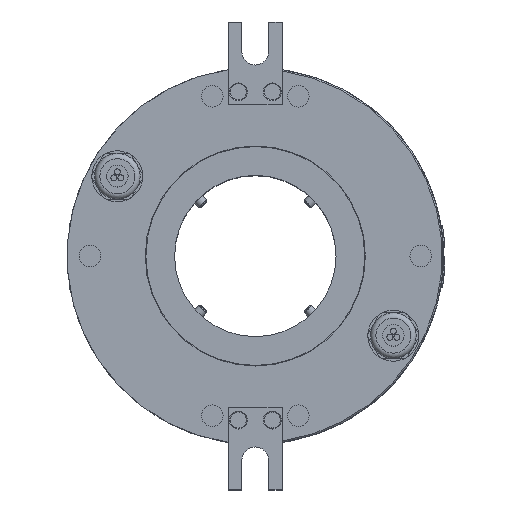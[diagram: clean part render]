
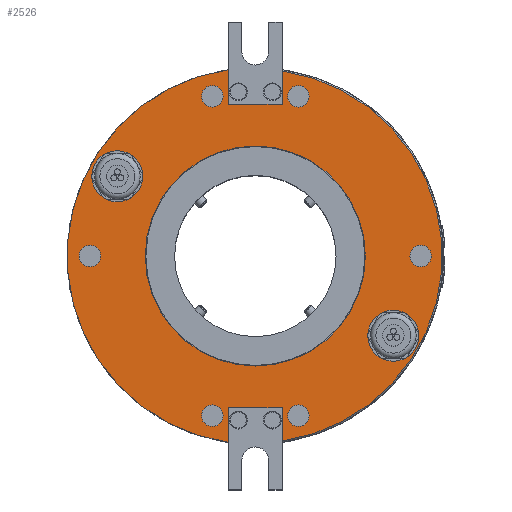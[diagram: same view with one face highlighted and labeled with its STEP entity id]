
A CAD part, top view. The second image highlights one B-rep face of the part: STEP entity #2526.
In plain terms, the highlighted planar face has unit normal (0, 0, 1).
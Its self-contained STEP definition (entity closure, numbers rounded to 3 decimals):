
#397=FACE_BOUND('',#5884,.T.);
#398=FACE_BOUND('',#5885,.T.);
#399=FACE_BOUND('',#5886,.T.);
#400=FACE_BOUND('',#5887,.T.);
#401=FACE_BOUND('',#5888,.T.);
#402=FACE_BOUND('',#5889,.T.);
#403=FACE_BOUND('',#5890,.T.);
#404=FACE_BOUND('',#5891,.T.);
#405=FACE_BOUND('',#5892,.T.);
#406=FACE_BOUND('',#5893,.T.);
#624=CIRCLE('',#18299,4.);
#626=CIRCLE('',#18302,4.);
#788=CIRCLE('',#18615,4.);
#789=CIRCLE('',#18617,4.);
#793=CIRCLE('',#18624,40.9);
#794=CIRCLE('',#18626,9.5);
#795=CIRCLE('',#18628,9.5);
#799=CIRCLE('',#18645,4.);
#801=CIRCLE('',#18648,4.);
#802=CIRCLE('',#18650,69.5);
#803=CIRCLE('',#18651,70.);
#1290=PLANE('',#18652);
#1713=LINE('',#34588,#3958);
#1717=LINE('',#34596,#3962);
#1719=LINE('',#34600,#3964);
#1721=LINE('',#34604,#3966);
#1736=LINE('',#34646,#3981);
#1737=LINE('',#34648,#3982);
#2526=ADVANCED_FACE('',(#397,#398,#399,#400,#401,#402,#403,#404,#405,#406),
#1290,.T.);
#3958=VECTOR('',#20874,1.);
#3962=VECTOR('',#20880,1.);
#3964=VECTOR('',#20884,1.);
#3966=VECTOR('',#20888,1.);
#3981=VECTOR('',#20917,1.);
#3982=VECTOR('',#20920,1.);
#5884=EDGE_LOOP('',(#9595,#9596,#9597,#9598,#9599,#9600,#9601,#9602));
#5885=EDGE_LOOP('',(#9603));
#5886=EDGE_LOOP('',(#9604));
#5887=EDGE_LOOP('',(#9605));
#5888=EDGE_LOOP('',(#9606));
#5889=EDGE_LOOP('',(#9607));
#5890=EDGE_LOOP('',(#9608));
#5891=EDGE_LOOP('',(#9609));
#5892=EDGE_LOOP('',(#9610));
#5893=EDGE_LOOP('',(#9611));
#9595=ORIENTED_EDGE('',*,*,#15183,.F.);
#9596=ORIENTED_EDGE('',*,*,#15191,.T.);
#9597=ORIENTED_EDGE('',*,*,#15165,.F.);
#9598=ORIENTED_EDGE('',*,*,#15163,.F.);
#9599=ORIENTED_EDGE('',*,*,#15161,.F.);
#9600=ORIENTED_EDGE('',*,*,#15192,.T.);
#9601=ORIENTED_EDGE('',*,*,#15184,.F.);
#9602=ORIENTED_EDGE('',*,*,#15157,.F.);
#9603=ORIENTED_EDGE('',*,*,#15156,.F.);
#9604=ORIENTED_EDGE('',*,*,#15155,.F.);
#9605=ORIENTED_EDGE('',*,*,#14789,.T.);
#9606=ORIENTED_EDGE('',*,*,#14791,.T.);
#9607=ORIENTED_EDGE('',*,*,#15154,.F.);
#9608=ORIENTED_EDGE('',*,*,#15150,.F.);
#9609=ORIENTED_EDGE('',*,*,#15190,.F.);
#9610=ORIENTED_EDGE('',*,*,#15188,.F.);
#9611=ORIENTED_EDGE('',*,*,#15149,.T.);
#12524=VERTEX_POINT('',#33313);
#12526=VERTEX_POINT('',#33318);
#12797=VERTEX_POINT('',#34566);
#12798=VERTEX_POINT('',#34569);
#12802=VERTEX_POINT('',#34580);
#12803=VERTEX_POINT('',#34583);
#12804=VERTEX_POINT('',#34586);
#12805=VERTEX_POINT('',#34589);
#12806=VERTEX_POINT('',#34590);
#12807=VERTEX_POINT('',#34595);
#12808=VERTEX_POINT('',#34597);
#12809=VERTEX_POINT('',#34601);
#12810=VERTEX_POINT('',#34605);
#12821=VERTEX_POINT('',#34645);
#12822=VERTEX_POINT('',#34649);
#12824=VERTEX_POINT('',#34657);
#12826=VERTEX_POINT('',#34662);
#14789=EDGE_CURVE('',#12524,#12524,#624,.T.);
#14791=EDGE_CURVE('',#12526,#12526,#626,.T.);
#15149=EDGE_CURVE('',#12797,#12797,#788,.T.);
#15150=EDGE_CURVE('',#12798,#12798,#789,.T.);
#15154=EDGE_CURVE('',#12802,#12802,#793,.T.);
#15155=EDGE_CURVE('',#12803,#12803,#794,.T.);
#15156=EDGE_CURVE('',#12804,#12804,#795,.T.);
#15157=EDGE_CURVE('',#12805,#12806,#1713,.T.);
#15161=EDGE_CURVE('',#12807,#12808,#1717,.T.);
#15163=EDGE_CURVE('',#12808,#12809,#1719,.T.);
#15165=EDGE_CURVE('',#12809,#12810,#1721,.T.);
#15183=EDGE_CURVE('',#12821,#12805,#1736,.T.);
#15184=EDGE_CURVE('',#12806,#12822,#1737,.T.);
#15188=EDGE_CURVE('',#12824,#12824,#799,.T.);
#15190=EDGE_CURVE('',#12826,#12826,#801,.T.);
#15191=EDGE_CURVE('',#12821,#12810,#802,.T.);
#15192=EDGE_CURVE('',#12807,#12822,#803,.T.);
#18299=AXIS2_PLACEMENT_3D('',#33312,#20032,#20033);
#18302=AXIS2_PLACEMENT_3D('',#33317,#20038,#20039);
#18615=AXIS2_PLACEMENT_3D('',#34565,#20844,#20845);
#18617=AXIS2_PLACEMENT_3D('',#34568,#20848,#20849);
#18624=AXIS2_PLACEMENT_3D('',#34579,#20862,#20863);
#18626=AXIS2_PLACEMENT_3D('',#34582,#20866,#20867);
#18628=AXIS2_PLACEMENT_3D('',#34585,#20870,#20871);
#18645=AXIS2_PLACEMENT_3D('',#34656,#20930,#20931);
#18648=AXIS2_PLACEMENT_3D('',#34661,#20936,#20937);
#18650=AXIS2_PLACEMENT_3D('',#34664,#20940,#20941);
#18651=AXIS2_PLACEMENT_3D('',#34665,#20942,#20943);
#18652=AXIS2_PLACEMENT_3D('',#34666,#20944,#20945);
#20032=DIRECTION('',(0.,0.,-1.));
#20033=DIRECTION('',(-0.174,0.985,0.));
#20038=DIRECTION('',(0.,0.,-1.));
#20039=DIRECTION('',(0.174,0.985,0.));
#20844=DIRECTION('',(0.,0.,-1.));
#20845=DIRECTION('',(1.,0.,0.));
#20848=DIRECTION('',(0.,0.,1.));
#20849=DIRECTION('',(1.,0.,0.));
#20862=DIRECTION('',(0.,0.,1.));
#20863=DIRECTION('',(1.,0.,0.));
#20866=DIRECTION('',(0.,0.,1.));
#20867=DIRECTION('',(0.,1.,0.));
#20870=DIRECTION('',(0.,0.,1.));
#20871=DIRECTION('',(0.,-1.,0.));
#20874=DIRECTION('',(-1.,0.,0.));
#20880=DIRECTION('',(0.,-1.,0.));
#20884=DIRECTION('',(1.,0.,0.));
#20888=DIRECTION('',(0.,1.,0.));
#20917=DIRECTION('',(0.,1.,0.));
#20920=DIRECTION('',(0.,-1.,0.));
#20930=DIRECTION('',(0.,0.,1.));
#20931=DIRECTION('',(1.,0.,0.));
#20936=DIRECTION('',(0.,0.,1.));
#20937=DIRECTION('',(1.,0.,0.));
#20940=DIRECTION('',(0.,0.,1.));
#20941=DIRECTION('',(1.,0.,0.));
#20942=DIRECTION('',(0.,0.,1.));
#20943=DIRECTION('',(1.,0.,0.));
#20944=DIRECTION('',(0.,0.,1.));
#20945=DIRECTION('',(1.,0.,0.));
#33312=CARTESIAN_POINT('',(61.5,0.,96.));
#33313=CARTESIAN_POINT('',(60.805,3.939,96.));
#33317=CARTESIAN_POINT('',(-61.5,0.,96.));
#33318=CARTESIAN_POINT('',(-60.805,3.939,96.));
#34565=CARTESIAN_POINT('',(-16.,59.382,96.));
#34566=CARTESIAN_POINT('',(-12.,59.382,96.));
#34568=CARTESIAN_POINT('',(16.,59.382,96.));
#34569=CARTESIAN_POINT('',(20.,59.382,96.));
#34579=CARTESIAN_POINT('',(0.,0.,96.));
#34580=CARTESIAN_POINT('',(40.9,0.,96.));
#34582=CARTESIAN_POINT('',(51.312,-29.625,96.));
#34583=CARTESIAN_POINT('',(51.312,-20.125,96.));
#34585=CARTESIAN_POINT('',(-51.312,29.625,96.));
#34586=CARTESIAN_POINT('',(-51.312,20.125,96.));
#34588=CARTESIAN_POINT('',(10.,-56.5,96.));
#34589=CARTESIAN_POINT('',(10.,-56.5,96.));
#34590=CARTESIAN_POINT('',(-10.,-56.5,96.));
#34595=CARTESIAN_POINT('',(-10.,69.282,96.));
#34596=CARTESIAN_POINT('',(-10.,87.,96.));
#34597=CARTESIAN_POINT('',(-10.,56.5,96.));
#34600=CARTESIAN_POINT('',(-10.,56.5,96.));
#34601=CARTESIAN_POINT('',(10.,56.5,96.));
#34604=CARTESIAN_POINT('',(10.,56.5,96.));
#34605=CARTESIAN_POINT('',(10.,68.777,96.));
#34645=CARTESIAN_POINT('',(10.,-68.777,96.));
#34646=CARTESIAN_POINT('',(10.,-87.,96.));
#34648=CARTESIAN_POINT('',(-10.,-56.5,96.));
#34649=CARTESIAN_POINT('',(-10.,-69.282,96.));
#34656=CARTESIAN_POINT('',(-16.,-59.382,96.));
#34657=CARTESIAN_POINT('',(-12.,-59.382,96.));
#34661=CARTESIAN_POINT('',(16.,-59.382,96.));
#34662=CARTESIAN_POINT('',(20.,-59.382,96.));
#34664=CARTESIAN_POINT('',(0.,0.,96.));
#34665=CARTESIAN_POINT('',(0.,0.,96.));
#34666=CARTESIAN_POINT('',(0.,0.,96.));
